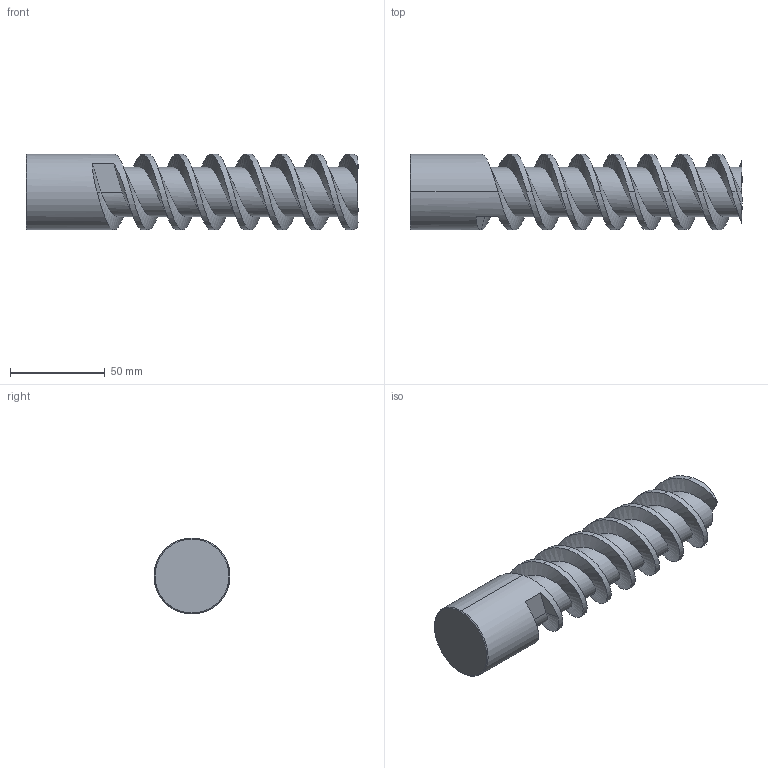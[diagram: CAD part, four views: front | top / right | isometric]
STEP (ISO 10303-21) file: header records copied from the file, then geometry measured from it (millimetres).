
FILE_DESCRIPTION (( 'STEP AP214' ), '1' );
FILE_NAME ('E2122_40_175.STEP', '2013-04-10T07:11:51', ( '' ), ( '' ), 'SwSTEP 2.0', 'SolidWorks 2013', '' );
FILE_SCHEMA (( 'AUTOMOTIVE_DESIGN' ));
Length unit declared in the file: millimetre
Products named in the file (1): E2122_40_175
Bounding box: 175 x 40 x 40 mm (x, y, z)
Volume: 148492.8 mm3; surface area: 28594 mm2
Topology: 1 solids, 1 shells, 32 faces, 84 edges, 54 vertices
Faces by surface type: cylinder 16, plane 8, bspline 6, cone 2
Entity records: 7049 total; most frequent: CARTESIAN_POINT 6030, ORIENTED_EDGE 168, DIRECTION 96, EDGE_CURVE 84, VERTEX_POINT 54, UNCERTAINTY_MEASURE_WITH_UNIT 35, STYLED_ITEM 34, PRESENTATION_STYLE_ASSIGNMENT 34
